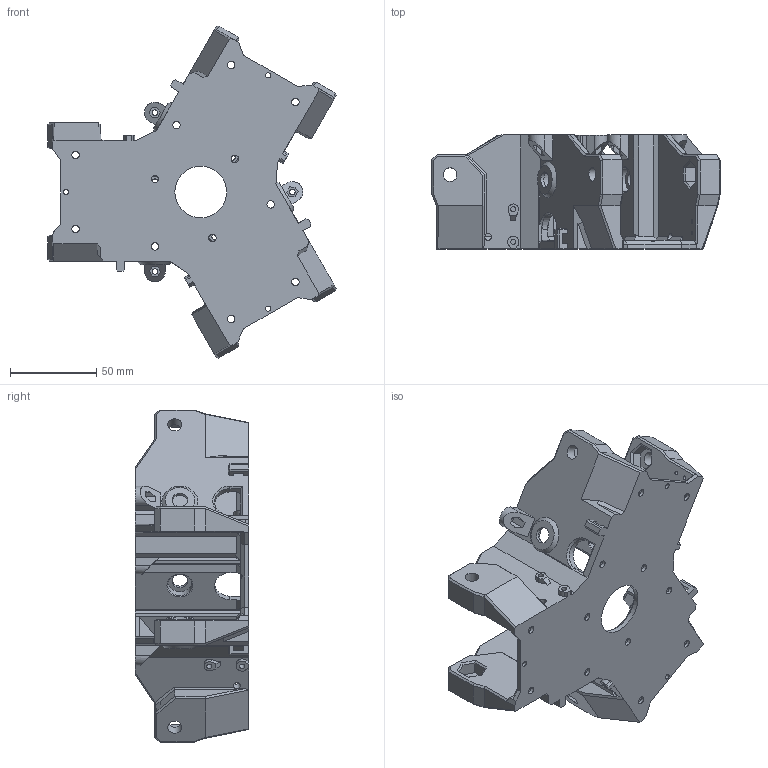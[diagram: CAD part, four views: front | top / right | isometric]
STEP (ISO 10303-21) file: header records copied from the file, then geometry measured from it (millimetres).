
FILE_DESCRIPTION(/* description */ (''),/* implementation_level */ '2;1');
FILE_NAME(/* name */ 'D:\3D печать\Мои проекты\Archy MK 2\STEP\MK3\редуктор V3.stp',/* time_stamp */ '2019-09-13T21:08:19+06:00',/* author */ ('Пользователь'),/* organization */ (''),/* preprocessor_version */ 'ST-DEVELOPER v16.5',/* originating_system */ 'Autodesk Inventor 2017',/* authorisation */ '');
FILE_SCHEMA (('AUTOMOTIVE_DESIGN { 1 0 10303 214 3 1 1 }'));
Length unit declared in the file: millimetre
Products named in the file (1): редуктор V3
Bounding box: 166.89 x 66 x 192.29 mm (x, y, z)
Volume: 288233.2 mm3; surface area: 102565 mm2
Topology: 1 solids, 1 shells, 825 faces, 2174 edges, 1370 vertices
Faces by surface type: plane 684, cylinder 73, bspline 49, cone 19
Full cylindrical faces by diameter (mm): 2 x6, 3 x9, 3.2 x6, 4 x3, 4.3 x12, 8 x6, 9 x6, 14.1 x6, 30 x1
Entity records: 26125 total; most frequent: CARTESIAN_POINT 6148, ORIENTED_EDGE 4188, DIRECTION 3769, EDGE_CURVE 2094, LINE 1801, VECTOR 1801, VERTEX_POINT 1357, EDGE_LOOP 997
